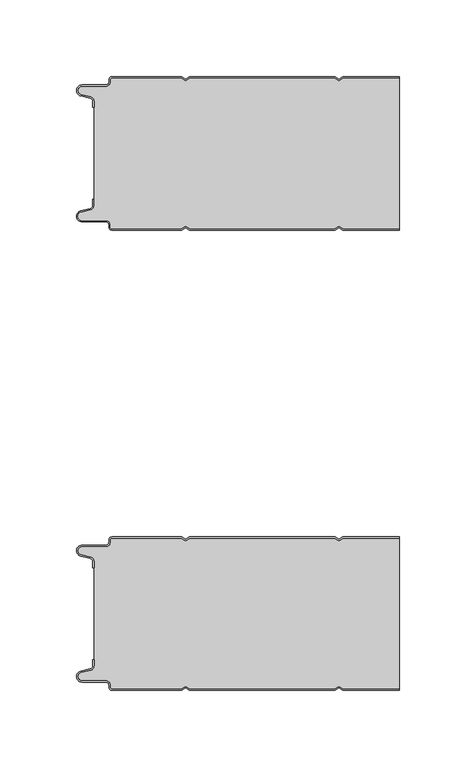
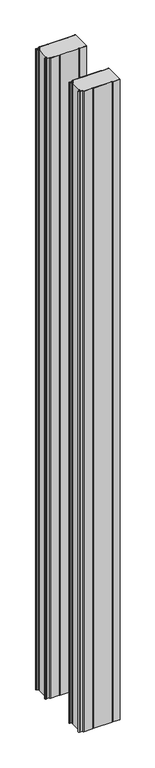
"""IFC4 building model written with IfcOpenShell, lengths in millimetres: plate geometry, Curtain-Panel_Doble-Panel-Acústico_Perfil-frigorífico-PMH : ACH_Doble-Panel-Acústico_PMH_100-200-100."""

from ifc_helpers import new_model, si_unit, point, frame_2d, origin, origin_with_axes, place, context, project, spatial, polyline, circle_curve, trimmed, segment, composite_curve, outline, extrude, source, transform, mapped, element, save


def plate_211f3b0a(model_context):
    return source(origin(), model_context, "Body", "SweptSolid", [
        extrude(outline(composite_curve([segment(trimmed(circle_curve(frame_2d((-102.0, -315.878557)), 2.0), [point((-100.0, -315.878557))], [point((-101.5500978, -313.9298169))], True, "CARTESIAN"), True, "CONTINUOUS"), segment(polyline([(-101.5500978, -313.9298169), (-107.7098239, -312.507732)]), True, "CONTINUOUS"), segment(trimmed(circle_curve(frame_2d((-106.9, -309.0)), 3.6), [point((-107.7098239, -312.507732))], [point((-106.9, -305.4))], False, "CARTESIAN"), True, "CONTINUOUS"), segment(polyline([(-106.9, -305.4), (-91.4, -305.4)]), True, "CONTINUOUS"), segment(trimmed(circle_curve(frame_2d((-91.4, -303.4)), 2.0), [point((-91.4, -305.4))], [point((-89.4, -303.4))], True, "CARTESIAN"), True, "CONTINUOUS"), segment(polyline([(-89.4, -303.4), (-89.4, -302.0)]), True, "CONTINUOUS"), segment(trimmed(circle_curve(frame_2d((-87.4, -302.0)), 2.0), [point((-89.4, -302.0))], [point((-87.4, -300.0))], False, "CARTESIAN"), True, "CONTINUOUS"), segment(polyline([(-87.4, -300.0), (-42.0999995, -300.0), (-39.4, -301.5588455), (-36.7000005, -300.0), (57.9000005, -300.0), (60.6, -301.5588455), (63.2999995, -300.0), (100.0, -300.0), (100.0, -300.8), (63.5143588, -300.8), (60.6, -302.482606), (57.6856412, -300.8), (-36.4856412, -300.8), (-39.4, -302.482606), (-42.3143588, -300.8), (-87.4, -300.8)]), True, "CONTINUOUS"), segment(trimmed(circle_curve(frame_2d((-87.4, -302.0)), 1.2), [point((-87.4, -300.8))], [point((-88.6, -302.0))], True, "CARTESIAN"), True, "CONTINUOUS"), segment(polyline([(-88.6, -302.0), (-88.6, -303.4)]), True, "CONTINUOUS"), segment(trimmed(circle_curve(frame_2d((-91.4, -303.4)), 2.8), [point((-88.6, -303.4))], [point((-91.4, -306.2))], False, "CARTESIAN"), True, "CONTINUOUS"), segment(polyline([(-91.4, -306.2), (-106.9, -306.2)]), True, "CONTINUOUS"), segment(trimmed(circle_curve(frame_2d((-106.9, -309.0)), 2.8), [point((-106.9, -306.2))], [point((-107.529863, -311.7282362))], True, "CARTESIAN"), True, "CONTINUOUS"), segment(polyline([(-107.529863, -311.7282362), (-101.370137, -313.150321)]), True, "CONTINUOUS"), segment(trimmed(circle_curve(frame_2d((-102.0, -315.878557)), 2.8), [point((-101.370137, -313.150321))], [point((-99.2, -315.878557))], False, "CARTESIAN"), True, "CONTINUOUS"), segment(polyline([(-99.2, -315.878557), (-99.2, -320.0), (-100.0, -320.0), (-100.0, -315.878557)]), True, "CONTINUOUS")], self_intersect=False)), origin_with_axes(), (0.0, 0.0, 1.0), 3500.0),
        extrude(outline(composite_curve([segment(polyline([(-100.0, -384.121443), (-100.0, -380.0), (-99.2, -380.0), (-99.2, -384.121443)]), True, "CONTINUOUS"), segment(trimmed(circle_curve(frame_2d((-102.0, -384.121443)), 2.8), [point((-99.2, -384.121443))], [point((-101.370137, -386.8496792))], False, "CARTESIAN"), True, "CONTINUOUS"), segment(polyline([(-101.370137, -386.8496792), (-107.529863, -388.271764)]), True, "CONTINUOUS"), segment(trimmed(circle_curve(frame_2d((-106.9, -391.0)), 2.8), [point((-107.529863, -388.271764))], [point((-106.9, -393.8))], True, "CARTESIAN"), True, "CONTINUOUS"), segment(polyline([(-106.9, -393.8), (-91.4, -393.8)]), True, "CONTINUOUS"), segment(trimmed(circle_curve(frame_2d((-91.4, -396.6)), 2.8), [point((-91.4, -393.8))], [point((-88.6, -396.6))], False, "CARTESIAN"), True, "CONTINUOUS"), segment(polyline([(-88.6, -396.6), (-88.6, -398.0)]), True, "CONTINUOUS"), segment(trimmed(circle_curve(frame_2d((-87.4, -398.0)), 1.2), [point((-88.6, -398.0))], [point((-87.4, -399.2))], True, "CARTESIAN"), True, "CONTINUOUS"), segment(polyline([(-87.4, -399.2), (-42.3143588, -399.2), (-39.4, -397.517394), (-36.4856412, -399.2), (57.6856412, -399.2), (60.6, -397.517394), (63.5143588, -399.2), (100.0, -399.2), (100.0, -400.0), (63.2999995, -400.0), (60.6, -398.4411545), (57.9000005, -400.0), (-36.7000005, -400.0), (-39.4, -398.4411545), (-42.0999995, -400.0), (-87.4, -400.0)]), True, "CONTINUOUS"), segment(trimmed(circle_curve(frame_2d((-87.4, -398.0)), 2.0), [point((-87.4, -400.0))], [point((-89.4, -398.0))], False, "CARTESIAN"), True, "CONTINUOUS"), segment(polyline([(-89.4, -398.0), (-89.4, -396.6)]), True, "CONTINUOUS"), segment(trimmed(circle_curve(frame_2d((-91.4, -396.6)), 2.0), [point((-89.4, -396.6))], [point((-91.4, -394.6))], True, "CARTESIAN"), True, "CONTINUOUS"), segment(polyline([(-91.4, -394.6), (-106.9, -394.6)]), True, "CONTINUOUS"), segment(trimmed(circle_curve(frame_2d((-106.9, -391.0)), 3.6), [point((-106.9, -394.6))], [point((-107.7098239, -387.4922678))], False, "CARTESIAN"), True, "CONTINUOUS"), segment(polyline([(-107.7098239, -387.4922678), (-101.5500979, -386.070183)]), True, "CONTINUOUS"), segment(trimmed(circle_curve(frame_2d((-102.0, -384.121443)), 2.0), [point((-101.5500979, -386.070183))], [point((-100.0, -384.121443))], True, "CARTESIAN"), True, "CONTINUOUS")], self_intersect=False)), origin_with_axes(), (0.0, 0.0, 1.0), 3500.0),
        extrude(outline(composite_curve([segment(polyline([(-99.2, -384.1214426), (-99.2, -315.8785573)]), True, "CONTINUOUS"), segment(trimmed(circle_curve(frame_2d((-102.0, -315.8785573)), 2.8), [point((-99.2, -315.8785573))], [point((-101.370137, -313.1503212))], True, "CARTESIAN"), True, "CONTINUOUS"), segment(polyline([(-101.370137, -313.1503212), (-107.5298631, -311.7282362)]), True, "CONTINUOUS"), segment(trimmed(circle_curve(frame_2d((-106.9, -309.0)), 2.8), [point((-107.5298631, -311.7282362))], [point((-106.9, -306.2))], False, "CARTESIAN"), True, "CONTINUOUS"), segment(polyline([(-106.9, -306.2), (-91.4000001, -306.2)]), True, "CONTINUOUS"), segment(trimmed(circle_curve(frame_2d((-91.4000001, -303.4)), 2.8), [point((-91.4000001, -306.2))], [point((-88.6000001, -303.4))], True, "CARTESIAN"), True, "CONTINUOUS"), segment(polyline([(-88.6000001, -303.4), (-88.6000001, -302.0)]), True, "CONTINUOUS"), segment(trimmed(circle_curve(frame_2d((-87.4000001, -302.0)), 1.2), [point((-88.6000001, -302.0))], [point((-87.4000001, -300.8))], False, "CARTESIAN"), True, "CONTINUOUS"), segment(polyline([(-87.4000001, -300.8), (-42.3143589, -300.8), (-39.4000001, -302.482606), (-36.4856412, -300.8), (57.6856411, -300.8), (60.5999999, -302.482606), (63.5143588, -300.8), (100.0, -300.8), (100.0, -399.2), (63.5143588, -399.2), (60.5999999, -397.517394), (57.6856411, -399.2), (-36.4856412, -399.2), (-39.4000001, -397.517394), (-42.3143589, -399.2), (-87.4000001, -399.2)]), True, "CONTINUOUS"), segment(trimmed(circle_curve(frame_2d((-87.4000001, -398.0)), 1.2), [point((-87.4000001, -399.2))], [point((-88.6000001, -398.0))], False, "CARTESIAN"), True, "CONTINUOUS"), segment(polyline([(-88.6000001, -398.0), (-88.6000001, -396.6)]), True, "CONTINUOUS"), segment(trimmed(circle_curve(frame_2d((-91.4000001, -396.6)), 2.8), [point((-88.6000001, -396.6))], [point((-91.4000001, -393.8))], True, "CARTESIAN"), True, "CONTINUOUS"), segment(polyline([(-91.4000001, -393.8), (-106.9, -393.8)]), True, "CONTINUOUS"), segment(trimmed(circle_curve(frame_2d((-106.9, -391.0)), 2.8), [point((-106.9, -393.8))], [point((-107.5298631, -388.2717638))], False, "CARTESIAN"), True, "CONTINUOUS"), segment(polyline([(-107.5298631, -388.2717638), (-101.370137, -386.8496788)]), True, "CONTINUOUS"), segment(trimmed(circle_curve(frame_2d((-102.0, -384.1214426)), 2.8), [point((-101.370137, -386.8496788))], [point((-99.2, -384.1214426))], True, "CARTESIAN"), True, "CONTINUOUS")], self_intersect=False)), origin_with_axes(), (0.0, 0.0, 1.0), 3500.0),
        extrude(outline(composite_curve([segment(trimmed(circle_curve(frame_2d((-102.0, -15.878557)), 2.0), [point((-100.0, -15.878557))], [point((-101.5500978, -13.9298169))], True, "CARTESIAN"), True, "CONTINUOUS"), segment(polyline([(-101.5500978, -13.9298169), (-107.7098239, -12.507732)]), True, "CONTINUOUS"), segment(trimmed(circle_curve(frame_2d((-106.9, -9.0)), 3.6), [point((-107.7098239, -12.507732))], [point((-106.9, -5.4))], False, "CARTESIAN"), True, "CONTINUOUS"), segment(polyline([(-106.9, -5.4), (-91.4, -5.4)]), True, "CONTINUOUS"), segment(trimmed(circle_curve(frame_2d((-91.4, -3.4)), 2.0), [point((-91.4, -5.4))], [point((-89.4, -3.4))], True, "CARTESIAN"), True, "CONTINUOUS"), segment(polyline([(-89.4, -3.4), (-89.4, -2.0)]), True, "CONTINUOUS"), segment(trimmed(circle_curve(frame_2d((-87.4, -2.0)), 2.0), [point((-89.4, -2.0))], [point((-87.4, 0.0))], False, "CARTESIAN"), True, "CONTINUOUS"), segment(polyline([(-87.4, 0.0), (-42.0999995, 0.0), (-39.4, -1.5588455), (-36.7000005, 0.0), (57.9000005, 0.0), (60.6, -1.5588455), (63.2999995, 0.0), (100.0, 0.0), (100.0, -0.8), (63.5143588, -0.8), (60.6, -2.482606), (57.6856412, -0.8), (-36.4856412, -0.8), (-39.4, -2.482606), (-42.3143588, -0.8), (-87.4, -0.8)]), True, "CONTINUOUS"), segment(trimmed(circle_curve(frame_2d((-87.4, -2.0)), 1.2), [point((-87.4, -0.8))], [point((-88.6, -2.0))], True, "CARTESIAN"), True, "CONTINUOUS"), segment(polyline([(-88.6, -2.0), (-88.6, -3.4)]), True, "CONTINUOUS"), segment(trimmed(circle_curve(frame_2d((-91.4, -3.4)), 2.8), [point((-88.6, -3.4))], [point((-91.4, -6.2))], False, "CARTESIAN"), True, "CONTINUOUS"), segment(polyline([(-91.4, -6.2), (-106.9, -6.2)]), True, "CONTINUOUS"), segment(trimmed(circle_curve(frame_2d((-106.9, -9.0)), 2.8), [point((-106.9, -6.2))], [point((-107.529863, -11.7282362))], True, "CARTESIAN"), True, "CONTINUOUS"), segment(polyline([(-107.529863, -11.7282362), (-101.370137, -13.150321)]), True, "CONTINUOUS"), segment(trimmed(circle_curve(frame_2d((-102.0, -15.878557)), 2.8), [point((-101.370137, -13.150321))], [point((-99.2, -15.878557))], False, "CARTESIAN"), True, "CONTINUOUS"), segment(polyline([(-99.2, -15.878557), (-99.2, -20.0), (-100.0, -20.0), (-100.0, -15.878557)]), True, "CONTINUOUS")], self_intersect=False)), origin_with_axes(), (0.0, 0.0, 1.0), 3500.0),
        extrude(outline(composite_curve([segment(polyline([(-99.2, -84.1214426), (-99.2, -15.8785573)]), True, "CONTINUOUS"), segment(trimmed(circle_curve(frame_2d((-102.0, -15.8785573)), 2.8), [point((-99.2, -15.8785573))], [point((-101.370137, -13.1503212))], True, "CARTESIAN"), True, "CONTINUOUS"), segment(polyline([(-101.370137, -13.1503212), (-107.5298631, -11.7282362)]), True, "CONTINUOUS"), segment(trimmed(circle_curve(frame_2d((-106.9, -9.0)), 2.8), [point((-107.5298631, -11.7282362))], [point((-106.9, -6.2))], False, "CARTESIAN"), True, "CONTINUOUS"), segment(polyline([(-106.9, -6.2), (-91.4000001, -6.2)]), True, "CONTINUOUS"), segment(trimmed(circle_curve(frame_2d((-91.4000001, -3.4)), 2.8), [point((-91.4000001, -6.2))], [point((-88.6000001, -3.4))], True, "CARTESIAN"), True, "CONTINUOUS"), segment(polyline([(-88.6000001, -3.4), (-88.6000001, -2.0)]), True, "CONTINUOUS"), segment(trimmed(circle_curve(frame_2d((-87.4000001, -2.0)), 1.2), [point((-88.6000001, -2.0))], [point((-87.4000001, -0.8))], False, "CARTESIAN"), True, "CONTINUOUS"), segment(polyline([(-87.4000001, -0.8), (-42.3143589, -0.8), (-39.4000001, -2.482606), (-36.4856412, -0.8), (57.6856411, -0.8), (60.5999999, -2.482606), (63.5143588, -0.8), (100.0, -0.8), (100.0, -99.2), (63.5143588, -99.2), (60.5999999, -97.517394), (57.6856411, -99.2), (-36.4856412, -99.2), (-39.4000001, -97.517394), (-42.3143589, -99.2), (-87.4000001, -99.2)]), True, "CONTINUOUS"), segment(trimmed(circle_curve(frame_2d((-87.4000001, -98.0)), 1.2), [point((-87.4000001, -99.2))], [point((-88.6000001, -98.0))], False, "CARTESIAN"), True, "CONTINUOUS"), segment(polyline([(-88.6000001, -98.0), (-88.6000001, -96.6)]), True, "CONTINUOUS"), segment(trimmed(circle_curve(frame_2d((-91.4000001, -96.6)), 2.8), [point((-88.6000001, -96.6))], [point((-91.4000001, -93.8))], True, "CARTESIAN"), True, "CONTINUOUS"), segment(polyline([(-91.4000001, -93.8), (-106.9, -93.8)]), True, "CONTINUOUS"), segment(trimmed(circle_curve(frame_2d((-106.9, -91.0)), 2.8), [point((-106.9, -93.8))], [point((-107.5298631, -88.2717638))], False, "CARTESIAN"), True, "CONTINUOUS"), segment(polyline([(-107.5298631, -88.2717638), (-101.370137, -86.8496788)]), True, "CONTINUOUS"), segment(trimmed(circle_curve(frame_2d((-102.0, -84.1214426)), 2.8), [point((-101.370137, -86.8496788))], [point((-99.2, -84.1214426))], True, "CARTESIAN"), True, "CONTINUOUS")], self_intersect=False)), origin_with_axes(), (0.0, 0.0, 1.0), 3500.0),
        extrude(outline(composite_curve([segment(polyline([(-100.0, -84.121443), (-100.0, -80.0), (-99.2, -80.0), (-99.2, -84.121443)]), True, "CONTINUOUS"), segment(trimmed(circle_curve(frame_2d((-102.0, -84.121443)), 2.8), [point((-99.2, -84.121443))], [point((-101.370137, -86.8496792))], False, "CARTESIAN"), True, "CONTINUOUS"), segment(polyline([(-101.370137, -86.8496792), (-107.529863, -88.271764)]), True, "CONTINUOUS"), segment(trimmed(circle_curve(frame_2d((-106.9, -91.0)), 2.8), [point((-107.529863, -88.271764))], [point((-106.9, -93.8))], True, "CARTESIAN"), True, "CONTINUOUS"), segment(polyline([(-106.9, -93.8), (-91.4, -93.8)]), True, "CONTINUOUS"), segment(trimmed(circle_curve(frame_2d((-91.4, -96.6)), 2.8), [point((-91.4, -93.8))], [point((-88.6, -96.6))], False, "CARTESIAN"), True, "CONTINUOUS"), segment(polyline([(-88.6, -96.6), (-88.6, -98.0)]), True, "CONTINUOUS"), segment(trimmed(circle_curve(frame_2d((-87.4, -98.0)), 1.2), [point((-88.6, -98.0))], [point((-87.4, -99.2))], True, "CARTESIAN"), True, "CONTINUOUS"), segment(polyline([(-87.4, -99.2), (-42.3143588, -99.2), (-39.4, -97.517394), (-36.4856412, -99.2), (57.6856412, -99.2), (60.6, -97.517394), (63.5143588, -99.2), (100.0, -99.2), (100.0, -100.0), (63.2999995, -100.0), (60.6, -98.4411545), (57.9000005, -100.0), (-36.7000005, -100.0), (-39.4, -98.4411545), (-42.0999995, -100.0), (-87.4, -100.0)]), True, "CONTINUOUS"), segment(trimmed(circle_curve(frame_2d((-87.4, -98.0)), 2.0), [point((-87.4, -100.0))], [point((-89.4, -98.0))], False, "CARTESIAN"), True, "CONTINUOUS"), segment(polyline([(-89.4, -98.0), (-89.4, -96.6)]), True, "CONTINUOUS"), segment(trimmed(circle_curve(frame_2d((-91.4, -96.6)), 2.0), [point((-89.4, -96.6))], [point((-91.4, -94.6))], True, "CARTESIAN"), True, "CONTINUOUS"), segment(polyline([(-91.4, -94.6), (-106.9, -94.6)]), True, "CONTINUOUS"), segment(trimmed(circle_curve(frame_2d((-106.9, -91.0)), 3.6), [point((-106.9, -94.6))], [point((-107.7098239, -87.4922678))], False, "CARTESIAN"), True, "CONTINUOUS"), segment(polyline([(-107.7098239, -87.4922678), (-101.5500979, -86.070183)]), True, "CONTINUOUS"), segment(trimmed(circle_curve(frame_2d((-102.0, -84.121443)), 2.0), [point((-101.5500979, -86.070183))], [point((-100.0, -84.121443))], True, "CARTESIAN"), True, "CONTINUOUS")], self_intersect=False)), origin_with_axes(), (0.0, 0.0, 1.0), 3500.0),
    ])


if __name__ == "__main__":
    model = new_model("IFC4")
    model_context = context("Model", 3, world=origin())
    ifc_project = project(units=[si_unit("LENGTHUNIT", "METRE", prefix="MILLI")], contexts=[model_context])
    site = spatial("IfcSite", under=ifc_project)
    building = spatial("IfcBuilding", under=site)
    placement = place(None, origin())
    plate_shape = plate_211f3b0a(model_context)
    element("IfcPlate", 1, ObjectType="Curtain-Panel_Doble-Panel-Acústico_Perfil-frigorífico-PMH : ACH_Doble-Panel-Acústico_PMH_100-200-100", at=placement, inside=building, context=model_context, shape_type="MappedRepresentation", body=[
        mapped(plate_shape, transform((0.0, 0.0, 0.0), x_axis=(1.0, 0.0, 0.0), y_axis=(0.0, 1.0, 0.0), z_axis=(0.0, 0.0, 1.0))),
    ])
    save(model, "model.ifc")
